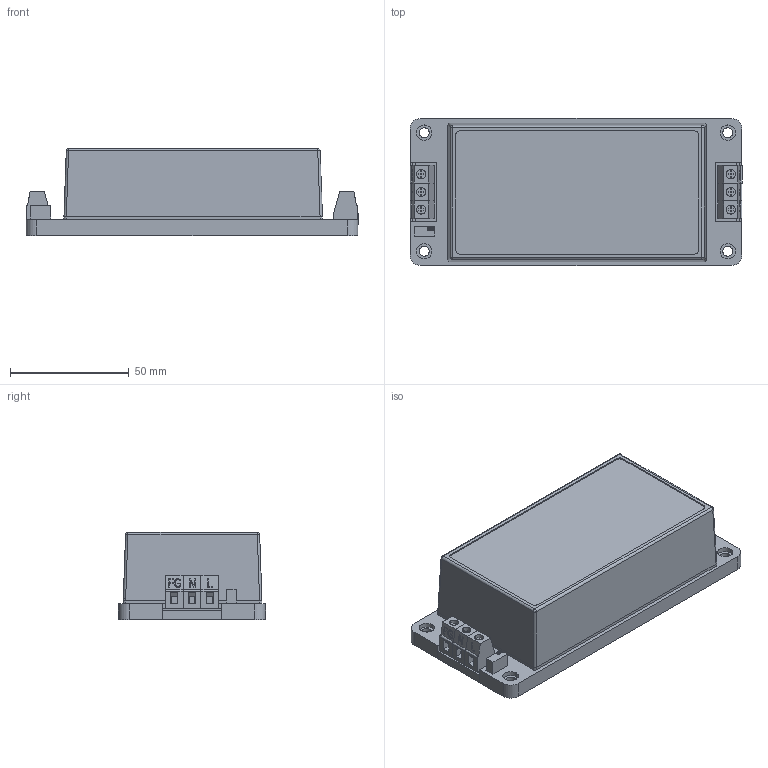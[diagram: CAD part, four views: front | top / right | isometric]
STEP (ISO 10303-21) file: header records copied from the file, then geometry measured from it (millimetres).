
FILE_DESCRIPTION((''),'2;1');
FILE_NAME('AEC-A2_ASM','2016-02-01T',('arch'),(''),'PRO/ENGINEER BY PARAMETRIC TECHNOLOGY CORPORATION, 2008380','PRO/ENGINEER BY PARAMETRIC TECHNOLOGY CORPORATION, 2008380','');
FILE_SCHEMA(('AUTOMOTIVE_DESIGN { 1 2 10303 214 0 1 1 1 }'));
Length unit declared in the file: millimetre
Products named in the file (30): A2_-_BOT_CASE; A2_-_TOP_COVER; A2_-_PCB; FUSE; DT-128-01_1; DT-128-01_2; DT-128-01_3; INLET_-_A2_-_IN_1_ASM_ASM_ASM_A_ASM; DT-128-01_4; DT-128-01_5; DT-128-01_6; INLET_-_A2_-_IN_2_ASM_ASM_ASM_A_ASM; ASSEMBLY_-_A2_ASM_ASM_ASM_ASM_ASM; ASSEMBLY___AQC100-A2_ASM_ASM_AS_ASM; A2_ASM_ASM_ASM_ASM_ASM; 140-A2_ASM_ASM_ASM_ASM_ASM; PRODUCT_3273_1_AF0; PRODUCT_1538; ASM0001_ASM_ASM_AF0_ASM_ASM_ASM_ASM; PIN_-_1_2_X_12_MM; PIN_-_1_8_X_12_MM; ASM0001_ASM_AF0_ASM_ASM_ASM_ASM; PRT0002; AEC60_ASM_ASM_AF0_ASM_ASM_ASM_ASM; AEC60_ASM_ASM_ASM_ASM_ASM; AEC60_ASM_ASM_ASM_ASM; AEC-A2_ASM_ASM_ASM; AEC-A2_ASM_ASM; CU; AEC-A2_ASM
Assembly tree (38 placements, depth 9):
  AEC-A2_ASM
    AEC-A2_ASM_ASM
      AEC-A2_ASM_ASM_ASM
        140-A2_ASM_ASM_ASM_ASM_ASM
          A2_ASM_ASM_ASM_ASM_ASM
            ASSEMBLY___AQC100-A2_ASM_ASM_AS_ASM
              ASSEMBLY_-_A2_ASM_ASM_ASM_ASM_ASM
                A2_-_BOT_CASE
                A2_-_TOP_COVER
                A2_-_PCB
                FUSE
                INLET_-_A2_-_IN_1_ASM_ASM_ASM_A_ASM
                  DT-128-01_1
                  DT-128-01_2
                  DT-128-01_3
                INLET_-_A2_-_IN_2_ASM_ASM_ASM_A_ASM
                  DT-128-01_4
                  DT-128-01_5
                  DT-128-01_6
        AEC60_ASM_ASM_ASM_ASM
          AEC60_ASM_ASM_ASM_ASM_ASM
            AEC60_ASM_ASM_AF0_ASM_ASM_ASM_ASM
              ASM0001_ASM_AF0_ASM_ASM_ASM_ASM
                ASM0001_ASM_ASM_AF0_ASM_ASM_ASM_ASM
                  PRODUCT_3273_1_AF0
                  PRODUCT_1538
                PIN_-_1_2_X_12_MM  x2
                PIN_-_1_8_X_12_MM  x4
              PRT0002  x4
    CU  x3
Bounding box: 140 x 62 x 36.7 mm (x, y, z)
Volume: 78719.5 mm3; surface area: 105638.8 mm2
Topology: 25 solids, 28 shells, 1043 faces, 2638 edges, 1724 vertices
Faces by surface type: plane 632, cylinder 231, extrusion 88, torus 48, cone 40, sphere 4
Entity records: 37430 total; most frequent: CARTESIAN_POINT 6080, ORIENTED_EDGE 4792, DIRECTION 4642, EDGE_CURVE 2398, PRESENTATION_STYLE_ASSIGNMENT 2336, STYLED_ITEM 2336, CURVE_STYLE 2322, VECTOR 1848
